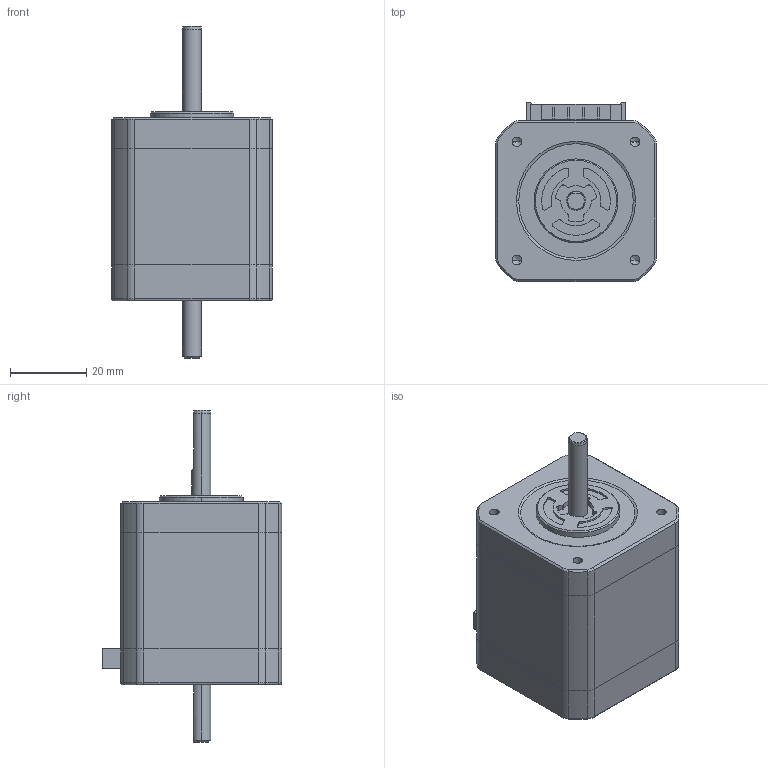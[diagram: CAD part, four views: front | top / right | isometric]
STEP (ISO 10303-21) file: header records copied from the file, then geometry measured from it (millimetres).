
FILE_DESCRIPTION (( 'STEP AP203' ), '1' );
FILE_NAME ('SF2423-10B11.STEP', '2018-10-25T23:49:32', ( '' ), ( '' ), 'SwSTEP 2.0', 'SolidWorks 2017', '' );
FILE_SCHEMA (( 'CONFIG_CONTROL_DESIGN' ));
Length unit declared in the file: millimetre
Products named in the file (1): SF2423-10B11
Bounding box: 42.15 x 46.98 x 87.05 mm (x, y, z)
Volume: 83562.2 mm3; surface area: 20893.9 mm2
Topology: 11 solids, 11 shells, 462 faces, 1161 edges, 735 vertices
Faces by surface type: plane 198, cylinder 185, cone 57, torus 14, bspline 8
Entity records: 13997 total; most frequent: CARTESIAN_POINT 2626, DIRECTION 2476, ORIENTED_EDGE 2294, EDGE_CURVE 1147, AXIS2_PLACEMENT_3D 897, VERTEX_POINT 735, VECTOR 682, LINE 682
